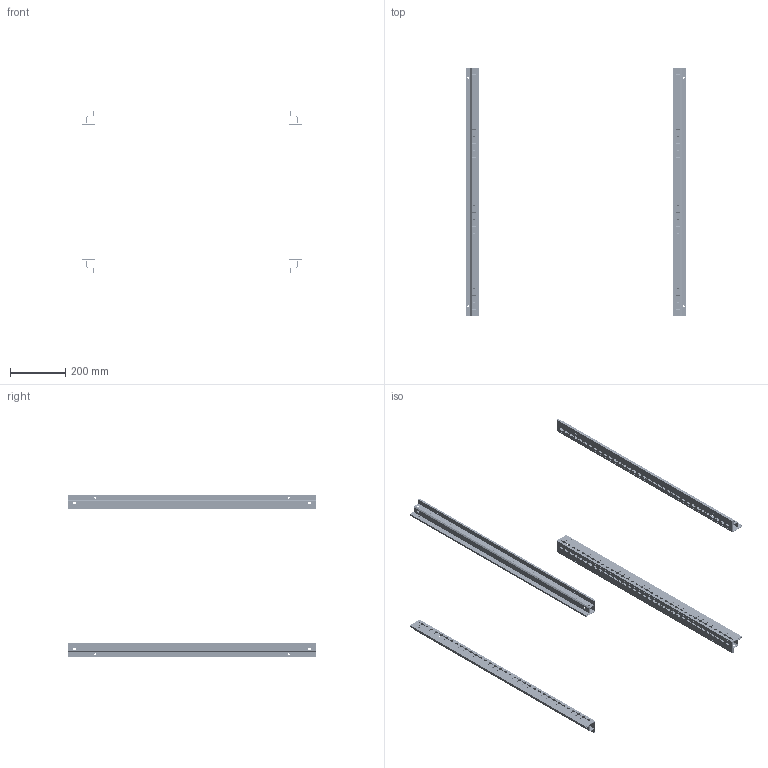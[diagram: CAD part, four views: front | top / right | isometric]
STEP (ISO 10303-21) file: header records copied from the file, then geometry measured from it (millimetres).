
FILE_DESCRIPTION(('Open CASCADE Model'),'2;1');
FILE_NAME('Open CASCADE Shape Model','2025-01-27T17:00:50',('Author'),( 'Open CASCADE'),'Open CASCADE STEP processor 7.8','Open CASCADE 7.8' ,'Unknown');
FILE_SCHEMA(('AUTOMOTIVE_DESIGN { 1 0 10303 214 1 1 1 1 }'));
Length unit declared in the file: millimetre
Products named in the file (2): Compound1; Solid1
Assembly tree (4 placements, depth 2):
  Compound1
    Solid1  x4
Bounding box: 799.4 x 899 x 585.4 mm (x, y, z)
Volume: 872742.9 mm3; surface area: 1334233.2 mm2
Topology: 4 solids, 4 shells, 5684 faces, 16824 edges, 11216 vertices
Faces by surface type: cylinder 3416, plane 2268
Full cylindrical faces by diameter (mm): 4.25 x568, 7 x16, 10 x16, 11 x16
Entity records: 49116 total; most frequent: DIRECTION 8766, CARTESIAN_POINT 8436, ORIENTED_EDGE 8412, EDGE_CURVE 4206, AXIS2_PLACEMENT_3D 3134, VERTEX_POINT 2804, LINE 2498, VECTOR 2498
